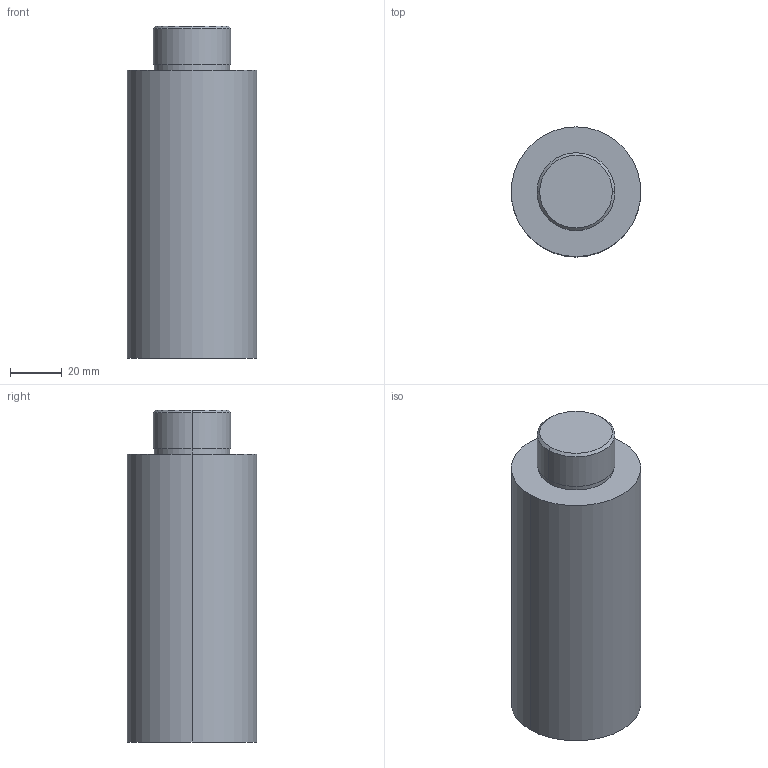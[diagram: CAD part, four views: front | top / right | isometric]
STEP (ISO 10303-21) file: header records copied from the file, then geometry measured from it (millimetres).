
FILE_DESCRIPTION (( 'STEP AP214' ), '1' );
FILE_NAME ('Âàëåö êëååíàíîñÿùèé D50x128.STEP', '2024-10-30T08:36:07', ( '' ), ( '' ), 'SwSTEP 2.0', 'SolidWorks 2016', '' );
FILE_SCHEMA (( 'AUTOMOTIVE_DESIGN' ));
Length unit declared in the file: millimetre
Products named in the file (1): Âàëåö êëååíàíîñÿùèé D50x128
Bounding box: 50 x 50 x 128 mm (x, y, z)
Volume: 184650.2 mm3; surface area: 30609.1 mm2
Topology: 1 solids, 1 shells, 32 faces, 74 edges, 46 vertices
Faces by surface type: plane 13, cylinder 10, cone 7, torus 2
Entity records: 939 total; most frequent: DIRECTION 167, CARTESIAN_POINT 163, ORIENTED_EDGE 144, EDGE_CURVE 72, AXIS2_PLACEMENT_3D 66, VERTEX_POINT 46, EDGE_LOOP 36, VECTOR 35
